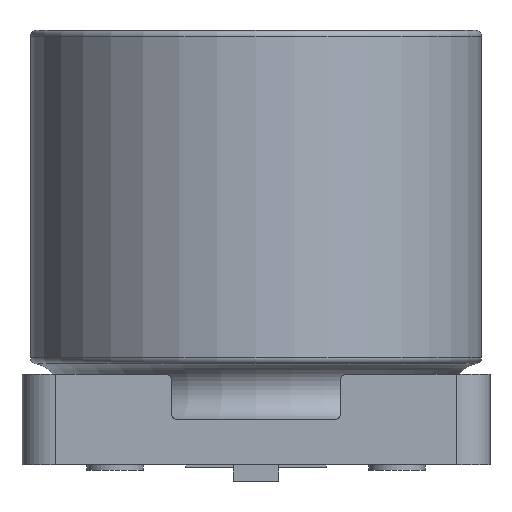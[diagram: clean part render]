
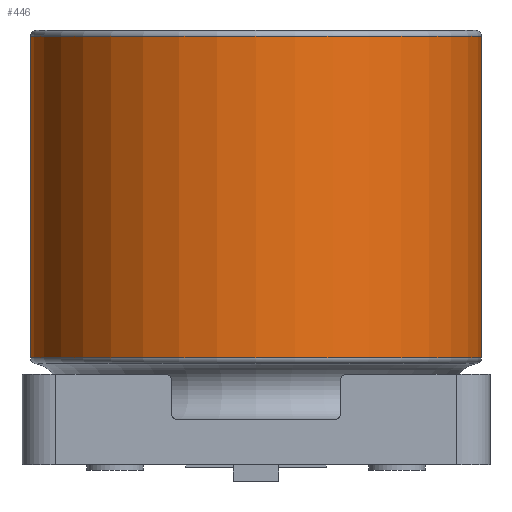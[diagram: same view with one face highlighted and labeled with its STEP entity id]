
A CAD part, left-side view. The second image highlights one B-rep face of the part: STEP entity #446.
In plain terms, the highlighted cylindrical face has radius 4 mm (diameter 8 mm), a full revolution.
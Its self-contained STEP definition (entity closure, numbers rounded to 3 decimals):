
#219=CYLINDRICAL_SURFACE('',#2487,4.);
#446=ADVANCED_FACE('',(#598,#599),#219,.T.);
#598=FACE_BOUND('',#672,.T.);
#599=FACE_BOUND('',#673,.T.);
#672=EDGE_LOOP('',(#1125));
#673=EDGE_LOOP('',(#1126));
#790=CIRCLE('',#2485,4.);
#791=CIRCLE('',#2486,4.);
#1125=ORIENTED_EDGE('',*,*,#1840,.T.);
#1126=ORIENTED_EDGE('',*,*,#1841,.T.);
#1591=VERTEX_POINT('',#3752);
#1592=VERTEX_POINT('',#3754);
#1840=EDGE_CURVE('',#1591,#1591,#790,.T.);
#1841=EDGE_CURVE('',#1592,#1592,#791,.T.);
#2485=AXIS2_PLACEMENT_3D('',#3751,#2909,#2910);
#2486=AXIS2_PLACEMENT_3D('',#3753,#2911,#2912);
#2487=AXIS2_PLACEMENT_3D('',#3755,#2913,#2914);
#2909=DIRECTION('',(0.,0.,1.));
#2910=DIRECTION('',(1.,0.,0.));
#2911=DIRECTION('',(0.,0.,-1.));
#2912=DIRECTION('',(-1.,0.,0.));
#2913=DIRECTION('',(0.,0.,-1.));
#2914=DIRECTION('',(-1.,0.,0.));
#3751=CARTESIAN_POINT('',(0.,0.,1.892));
#3752=CARTESIAN_POINT('',(4.,0.,1.892));
#3753=CARTESIAN_POINT('',(0.,0.,7.6));
#3754=CARTESIAN_POINT('',(-4.,0.,7.6));
#3755=CARTESIAN_POINT('',(0.,0.,0.));
